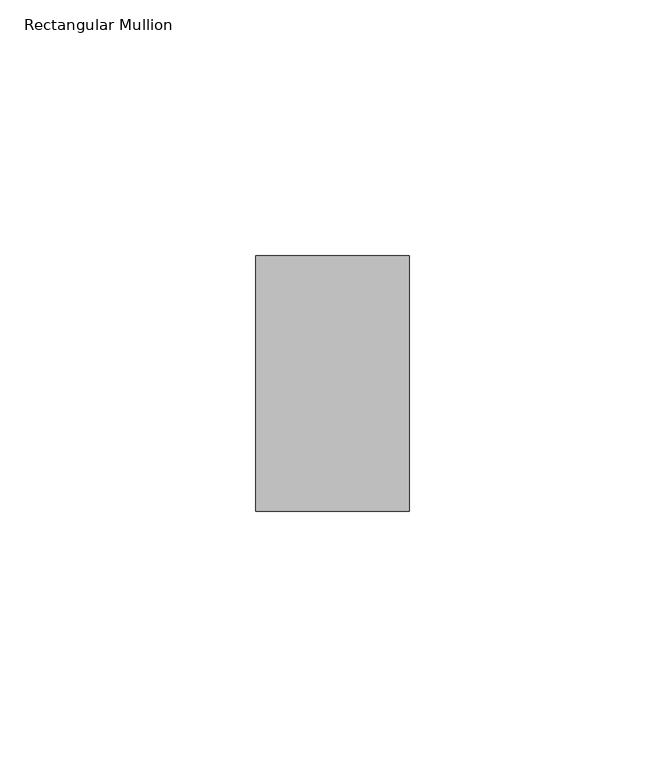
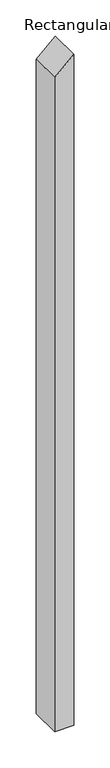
"""IFC4 building model written with IfcOpenShell, lengths in millimetres: member geometry, Rectangular Mullion : ARQ_TV_MULL_50x30mm."""

from ifc_helpers import new_model, si_unit, frame, origin, place, context, project, spatial, polyline, outline, extrude, source, transform, mapped, element, save


def rectangular_mullion_4031b17f(model_context):
    return source(origin(), model_context, "Body", "SweptSolid", [
        extrude(outline(polyline([(0.0, 0.0), (-27.6771039, -30.0), (-1124.8909795, -30.0), (-1124.8909795, 0.0), (0.0, 0.0)])), frame((0.0, -25.0, 0.0), z_axis=(0.0, 1.0, 0.0), x_axis=(0.0, 0.0, 1.0)), (0.0, 0.0, 1.0), 50.0),
    ])


if __name__ == "__main__":
    model = new_model("IFC4")
    model_context = context("Model", 3, world=origin())
    ifc_project = project(units=[si_unit("LENGTHUNIT", "METRE", prefix="MILLI")], contexts=[model_context])
    site = spatial("IfcSite", under=ifc_project)
    building = spatial("IfcBuilding", under=site)
    placement = place(None, origin())
    rectangular_mullion_shape = rectangular_mullion_4031b17f(model_context)
    element("IfcMember", 1, ObjectType="Rectangular Mullion : ARQ_TV_MULL_50x30mm", at=placement, inside=building, context=model_context, shape_type="MappedRepresentation", body=[
        mapped(rectangular_mullion_shape, transform((0.0, 0.0, 0.0), x_axis=(1.0, 0.0, 0.0), y_axis=(0.0, 1.0, 0.0), z_axis=(0.0, 0.0, 1.0))),
    ])
    save(model, "model.ifc")
